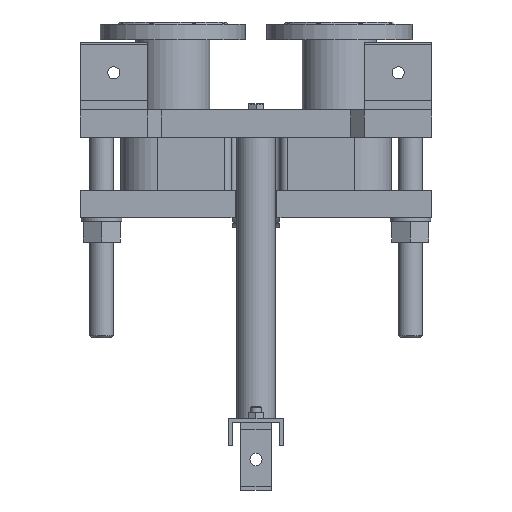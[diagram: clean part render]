
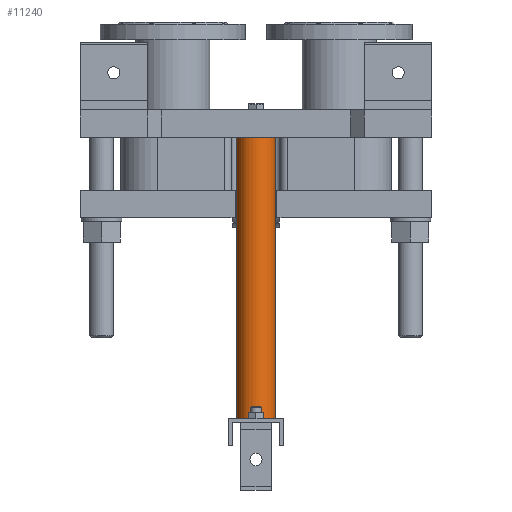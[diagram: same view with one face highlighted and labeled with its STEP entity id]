
A CAD part, front view. The second image highlights one B-rep face of the part: STEP entity #11240.
In plain terms, the highlighted cylindrical face has radius 28.5 mm (diameter 57 mm), a full revolution.
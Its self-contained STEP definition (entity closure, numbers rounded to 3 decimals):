
#781=LINE('',#22043,#1754);
#1754=VECTOR('',#14569,28.5);
#2333=CYLINDRICAL_SURFACE('',#12263,28.5);
#2995=FACE_OUTER_BOUND('',#3777,.T.);
#3777=EDGE_LOOP('',(#9013,#9014,#9015,#9016));
#4462=CIRCLE('',#12264,28.5);
#4463=CIRCLE('',#12265,28.5);
#5286=VERTEX_POINT('',#22040);
#5287=VERTEX_POINT('',#22042);
#6596=EDGE_CURVE('',#5286,#5286,#4462,.T.);
#6597=EDGE_CURVE('',#5286,#5287,#781,.T.);
#6598=EDGE_CURVE('',#5287,#5287,#4463,.T.);
#9013=ORIENTED_EDGE('',*,*,#6596,.F.);
#9014=ORIENTED_EDGE('',*,*,#6597,.T.);
#9015=ORIENTED_EDGE('',*,*,#6598,.T.);
#9016=ORIENTED_EDGE('',*,*,#6597,.F.);
#11240=ADVANCED_FACE('',(#2995),#2333,.T.);
#12263=AXIS2_PLACEMENT_3D('',#22039,#14565,#14566);
#12264=AXIS2_PLACEMENT_3D('',#22041,#14567,#14568);
#12265=AXIS2_PLACEMENT_3D('',#22044,#14570,#14571);
#14565=DIRECTION('center_axis',(0.,0.,
-1.));
#14566=DIRECTION('ref_axis',(-1.,0.,0.));
#14567=DIRECTION('center_axis',(0.,0.,
-1.));
#14568=DIRECTION('ref_axis',(-1.,0.,0.));
#14569=DIRECTION('',(0.,0.,1.));
#14570=DIRECTION('center_axis',(0.,0.,
-1.));
#14571=DIRECTION('ref_axis',(-1.,0.,0.));
#22039=CARTESIAN_POINT('Origin',(0.,215.,0.));
#22040=CARTESIAN_POINT('',(28.5,215.,-415.5));
#22041=CARTESIAN_POINT('Origin',(0.,215.,-415.5));
#22042=CARTESIAN_POINT('',(28.5,215.,0.));
#22043=CARTESIAN_POINT('',(28.5,215.,0.));
#22044=CARTESIAN_POINT('Origin',(0.,215.,0.));
